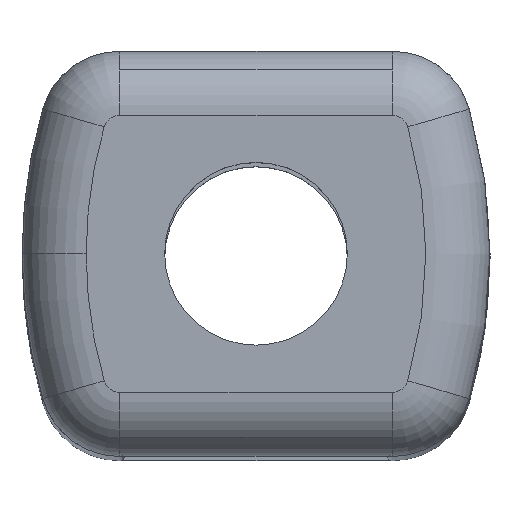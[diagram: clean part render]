
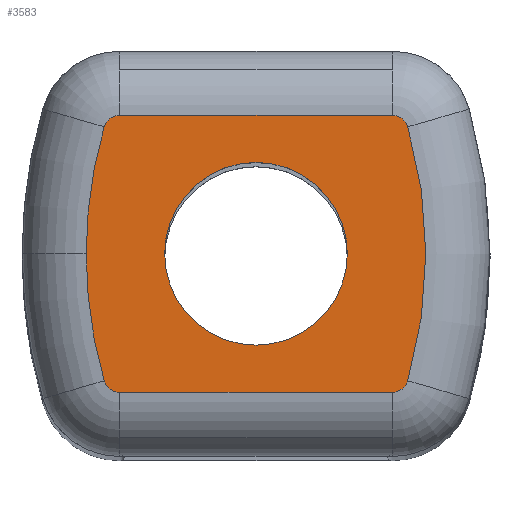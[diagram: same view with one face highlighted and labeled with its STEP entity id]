
A CAD part, top view. The second image highlights one B-rep face of the part: STEP entity #3583.
In plain terms, the highlighted planar face has unit normal (0, 0, 1) as drawn and (0, -1, 0) by its records, which use the part's own axes.
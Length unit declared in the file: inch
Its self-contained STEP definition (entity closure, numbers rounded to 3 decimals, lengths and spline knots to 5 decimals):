
#10 = DIRECTION ( 'NONE',  ( 0., 1., 0. ) ) ;
#93 = DIRECTION ( 'NONE',  ( -1., 0., 0. ) ) ;
#140 = DIRECTION ( 'NONE',  ( 1., 0., 0. ) ) ;
#172 = AXIS2_PLACEMENT_3D ( 'NONE', #2402, #4899, #6355 ) ;
#196 = CIRCLE ( 'NONE', #4110, 0.025 ) ;
#251 = ORIENTED_EDGE ( 'NONE', *, *, #842, .F. ) ;
#329 = DIRECTION ( 'NONE',  ( 1., 0., 0. ) ) ;
#382 = EDGE_CURVE ( 'NONE', #3256, #2054, #4626, .T. ) ;
#445 = CARTESIAN_POINT ( 'NONE',  ( 1.62584, 4.95583, 0.32204 ) ) ;
#458 = EDGE_CURVE ( 'NONE', #2054, #2668, #3212, .T. ) ;
#510 = DIRECTION ( 'NONE',  ( -1., 0., 0. ) ) ;
#552 = ORIENTED_EDGE ( 'NONE', *, *, #2839, .F. ) ;
#565 = FACE_OUTER_BOUND ( 'NONE', #4157, .T. ) ;
#659 = VERTEX_POINT ( 'NONE', #6396 ) ;
#702 = AXIS2_PLACEMENT_3D ( 'NONE', #1889, #6383, #329 ) ;
#842 = EDGE_CURVE ( 'NONE', #5067, #4396, #4420, .T. ) ;
#1156 = CIRCLE ( 'NONE', #2724, 0.1425 ) ;
#1193 = DIRECTION ( 'NONE',  ( -0.6, 0., 0.8 ) ) ;
#1233 = DIRECTION ( 'NONE',  ( -0.6, 0., -0.8 ) ) ;
#1272 = CARTESIAN_POINT ( 'NONE',  ( 1.17657, 4.95583, 0.30401 ) ) ;
#1766 = CARTESIAN_POINT ( 'NONE',  ( 1.41333, 4.95583, 0.10598 ) ) ;
#1774 = AXIS2_PLACEMENT_3D ( 'NONE', #4546, #10, #2216 ) ;
#1787 = AXIS2_PLACEMENT_3D ( 'NONE', #5048, #2042, #1193 ) ;
#1871 = ORIENTED_EDGE ( 'NONE', *, *, #2588, .F. ) ;
#1889 = CARTESIAN_POINT ( 'NONE',  ( 0.96826, 4.95583, 0.10598 ) ) ;
#1891 = VERTEX_POINT ( 'NONE', #4272 ) ;
#2042 = DIRECTION ( 'NONE',  ( 0., 1., 0. ) ) ;
#2054 = VERTEX_POINT ( 'NONE', #3377 ) ;
#2056 = CARTESIAN_POINT ( 'NONE',  ( 1.41333, 4.95583, 0.10598 ) ) ;
#2146 = DIRECTION ( 'NONE',  ( 0., -1., 0. ) ) ;
#2158 = CARTESIAN_POINT ( 'NONE',  ( 1.20058, 4.95583, -0.08509 ) ) ;
#2192 = AXIS2_PLACEMENT_3D ( 'NONE', #1766, #2680, #5299 ) ;
#2216 = DIRECTION ( 'NONE',  ( 0.6, 0., 0.8 ) ) ;
#2369 = ORIENTED_EDGE ( 'NONE', *, *, #3826, .F. ) ;
#2402 = CARTESIAN_POINT ( 'NONE',  ( 0.96826, 4.95583, 0.10598 ) ) ;
#2454 = CARTESIAN_POINT ( 'NONE',  ( 1.30695, 4.95583, -0.11009 ) ) ;
#2576 = PLANE ( 'NONE',  #5898 ) ;
#2588 = EDGE_CURVE ( 'NONE', #3589, #5925, #2707, .T. ) ;
#2647 = DIRECTION ( 'NONE',  ( 0., 0., -1. ) ) ;
#2668 = VERTEX_POINT ( 'NONE', #445 ) ;
#2676 = ORIENTED_EDGE ( 'NONE', *, *, #2979, .F. ) ;
#2680 = DIRECTION ( 'NONE',  ( 0., -1., 0. ) ) ;
#2707 = CIRCLE ( 'NONE', #702, 0.71 ) ;
#2724 = AXIS2_PLACEMENT_3D ( 'NONE', #2056, #5461, #2985 ) ;
#2839 = EDGE_CURVE ( 'NONE', #2668, #5246, #3453, .T. ) ;
#2879 = CARTESIAN_POINT ( 'NONE',  ( 1.62607, 4.95583, -0.11009 ) ) ;
#2979 = EDGE_CURVE ( 'NONE', #5246, #3589, #3875, .T. ) ;
#2985 = DIRECTION ( 'NONE',  ( 0., 0., 1. ) ) ;
#3212 = LINE ( 'NONE', #4674, #3464 ) ;
#3256 = VERTEX_POINT ( 'NONE', #1272 ) ;
#3324 = ORIENTED_EDGE ( 'NONE', *, *, #4324, .F. ) ;
#3352 = EDGE_LOOP ( 'NONE', ( #2369, #251 ) ) ;
#3377 = CARTESIAN_POINT ( 'NONE',  ( 1.20063, 4.95583, 0.32204 ) ) ;
#3453 = CIRCLE ( 'NONE', #1774, 0.025 ) ;
#3464 = VECTOR ( 'NONE', #140, 39.37008 ) ;
#3583 = ADVANCED_FACE ( 'NONE', ( #565, #5193 ), #2576, .T. ) ;
#3589 = VERTEX_POINT ( 'NONE', #5694 ) ;
#3726 = CARTESIAN_POINT ( 'NONE',  ( 1.65008, 4.95583, -0.09206 ) ) ;
#3826 = EDGE_CURVE ( 'NONE', #4396, #5067, #1156, .T. ) ;
#3875 = CIRCLE ( 'NONE', #172, 0.71 ) ;
#4110 = AXIS2_PLACEMENT_3D ( 'NONE', #4512, #4986, #6535 ) ;
#4157 = EDGE_LOOP ( 'NONE', ( #6306, #4410, #3324, #6067, #6451, #1871, #2676, #552, #5712 ) ) ;
#4161 = CARTESIAN_POINT ( 'NONE',  ( 1.8584, 4.95583, 0.10598 ) ) ;
#4272 = CARTESIAN_POINT ( 'NONE',  ( 1.20058, 4.95583, -0.11009 ) ) ;
#4316 = AXIS2_PLACEMENT_3D ( 'NONE', #2158, #6200, #1233 ) ;
#4324 = EDGE_CURVE ( 'NONE', #1891, #659, #4527, .T. ) ;
#4396 = VERTEX_POINT ( 'NONE', #5441 ) ;
#4410 = ORIENTED_EDGE ( 'NONE', *, *, #5982, .F. ) ;
#4420 = CIRCLE ( 'NONE', #2192, 0.1425 ) ;
#4463 = CIRCLE ( 'NONE', #4887, 0.71 ) ;
#4481 = EDGE_CURVE ( 'NONE', #5925, #5843, #196, .T. ) ;
#4512 = CARTESIAN_POINT ( 'NONE',  ( 1.62607, 4.95583, -0.08509 ) ) ;
#4527 = CIRCLE ( 'NONE', #4316, 0.025 ) ;
#4546 = CARTESIAN_POINT ( 'NONE',  ( 1.62607, 4.95583, 0.29704 ) ) ;
#4626 = CIRCLE ( 'NONE', #1787, 0.025 ) ;
#4674 = CARTESIAN_POINT ( 'NONE',  ( 1.51958, 4.95583, 0.32204 ) ) ;
#4887 = AXIS2_PLACEMENT_3D ( 'NONE', #4161, #5124, #93 ) ;
#4899 = DIRECTION ( 'NONE',  ( 0., 1., 0. ) ) ;
#4986 = DIRECTION ( 'NONE',  ( 0., 1., 0. ) ) ;
#5048 = CARTESIAN_POINT ( 'NONE',  ( 1.20058, 4.95583, 0.29704 ) ) ;
#5067 = VERTEX_POINT ( 'NONE', #6255 ) ;
#5078 = VECTOR ( 'NONE', #510, 39.37008 ) ;
#5124 = DIRECTION ( 'NONE',  ( 0., 1., 0. ) ) ;
#5193 = FACE_BOUND ( 'NONE', #3352, .T. ) ;
#5246 = VERTEX_POINT ( 'NONE', #6102 ) ;
#5299 = DIRECTION ( 'NONE',  ( 0., 0., 1. ) ) ;
#5382 = EDGE_CURVE ( 'NONE', #5843, #1891, #5478, .T. ) ;
#5441 = CARTESIAN_POINT ( 'NONE',  ( 1.41333, 4.95583, 0.24848 ) ) ;
#5461 = DIRECTION ( 'NONE',  ( 0., -1., 0. ) ) ;
#5478 = LINE ( 'NONE', #2454, #5078 ) ;
#5694 = CARTESIAN_POINT ( 'NONE',  ( 1.67826, 4.95583, 0.10598 ) ) ;
#5712 = ORIENTED_EDGE ( 'NONE', *, *, #458, .F. ) ;
#5843 = VERTEX_POINT ( 'NONE', #2879 ) ;
#5898 = AXIS2_PLACEMENT_3D ( 'NONE', #6187, #2146, #2647 ) ;
#5925 = VERTEX_POINT ( 'NONE', #3726 ) ;
#5982 = EDGE_CURVE ( 'NONE', #659, #3256, #4463, .T. ) ;
#6067 = ORIENTED_EDGE ( 'NONE', *, *, #5382, .F. ) ;
#6102 = CARTESIAN_POINT ( 'NONE',  ( 1.65008, 4.95583, 0.30401 ) ) ;
#6187 = CARTESIAN_POINT ( 'NONE',  ( 1.41333, 4.95583, 0.10599 ) ) ;
#6200 = DIRECTION ( 'NONE',  ( 0., 1., 0. ) ) ;
#6255 = CARTESIAN_POINT ( 'NONE',  ( 1.41333, 4.95583, -0.03652 ) ) ;
#6306 = ORIENTED_EDGE ( 'NONE', *, *, #382, .F. ) ;
#6355 = DIRECTION ( 'NONE',  ( 1., 0., 0. ) ) ;
#6383 = DIRECTION ( 'NONE',  ( 0., 1., 0. ) ) ;
#6396 = CARTESIAN_POINT ( 'NONE',  ( 1.17657, 4.95583, -0.09206 ) ) ;
#6451 = ORIENTED_EDGE ( 'NONE', *, *, #4481, .F. ) ;
#6535 = DIRECTION ( 'NONE',  ( 0.6, 0., -0.8 ) ) ;
